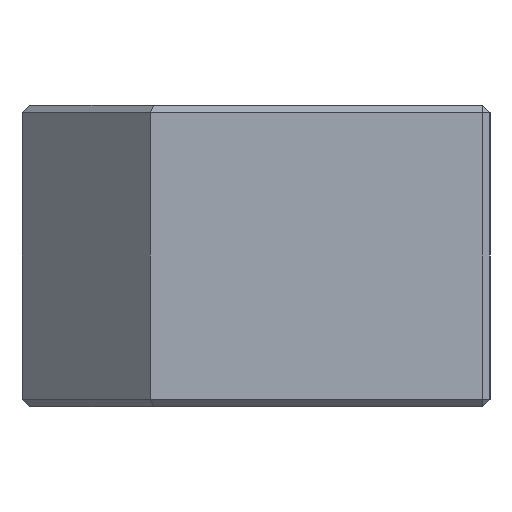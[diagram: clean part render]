
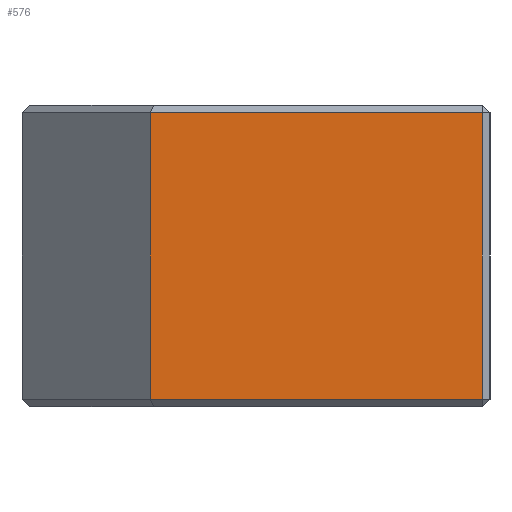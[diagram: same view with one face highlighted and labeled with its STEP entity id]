
A CAD part, left-side view. The second image highlights one B-rep face of the part: STEP entity #576.
In plain terms, the highlighted planar face has unit normal (-1, 0, 0).
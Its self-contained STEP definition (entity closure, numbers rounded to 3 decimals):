
#26 = VERTEX_POINT ( 'NONE', #874 ) ;
#43 = ORIENTED_EDGE ( 'NONE', *, *, #967, .F. ) ;
#65 = CARTESIAN_POINT ( 'NONE',  ( -43., -31., 0. ) ) ;
#133 = VECTOR ( 'NONE', #409, 1000. ) ;
#220 = CARTESIAN_POINT ( 'NONE',  ( -43., -30., -1. ) ) ;
#256 = LINE ( 'NONE', #1235, #133 ) ;
#267 = DIRECTION ( 'NONE',  ( 0., 0., -1. ) ) ;
#278 = VECTOR ( 'NONE', #946, 1000. ) ;
#284 = EDGE_LOOP ( 'NONE', ( #379, #422, #538, #43 ) ) ;
#285 = PLANE ( 'NONE',  #1003 ) ;
#293 = DIRECTION ( 'NONE',  ( 0., 1., 0. ) ) ;
#311 = FACE_OUTER_BOUND ( 'NONE', #284, .T. ) ;
#379 = ORIENTED_EDGE ( 'NONE', *, *, #714, .F. ) ;
#409 = DIRECTION ( 'NONE',  ( 0., -1., 0. ) ) ;
#422 = ORIENTED_EDGE ( 'NONE', *, *, #850, .F. ) ;
#428 = CARTESIAN_POINT ( 'NONE',  ( -43., 14., -1. ) ) ;
#443 = CARTESIAN_POINT ( 'NONE',  ( -43., -30., -39. ) ) ;
#456 = DIRECTION ( 'NONE',  ( 0., 0., 1. ) ) ;
#538 = ORIENTED_EDGE ( 'NONE', *, *, #1156, .F. ) ;
#568 = CARTESIAN_POINT ( 'NONE',  ( -43., -15.5, -39. ) ) ;
#576 = ADVANCED_FACE ( 'NONE', ( #311 ), #285, .T. ) ;
#714 = EDGE_CURVE ( 'NONE', #904, #26, #969, .T. ) ;
#733 = VECTOR ( 'NONE', #267, 1000. ) ;
#819 = CARTESIAN_POINT ( 'NONE',  ( -43., 14., 0. ) ) ;
#850 = EDGE_CURVE ( 'NONE', #1139, #904, #862, .T. ) ;
#862 = LINE ( 'NONE', #1336, #733 ) ;
#874 = CARTESIAN_POINT ( 'NONE',  ( -43., 14., -39. ) ) ;
#904 = VERTEX_POINT ( 'NONE', #443 ) ;
#944 = VERTEX_POINT ( 'NONE', #428 ) ;
#946 = DIRECTION ( 'NONE',  ( 0., 1., 0. ) ) ;
#967 = EDGE_CURVE ( 'NONE', #26, #944, #1046, .T. ) ;
#969 = LINE ( 'NONE', #568, #278 ) ;
#1003 = AXIS2_PLACEMENT_3D ( 'NONE', #65, #1233, #293 ) ;
#1046 = LINE ( 'NONE', #819, #1407 ) ;
#1139 = VERTEX_POINT ( 'NONE', #220 ) ;
#1156 = EDGE_CURVE ( 'NONE', #944, #1139, #256, .T. ) ;
#1233 = DIRECTION ( 'NONE',  ( -1., 0., 0. ) ) ;
#1235 = CARTESIAN_POINT ( 'NONE',  ( -43., -15.5, -1. ) ) ;
#1336 = CARTESIAN_POINT ( 'NONE',  ( -43., -30., 0. ) ) ;
#1407 = VECTOR ( 'NONE', #456, 1000. ) ;
